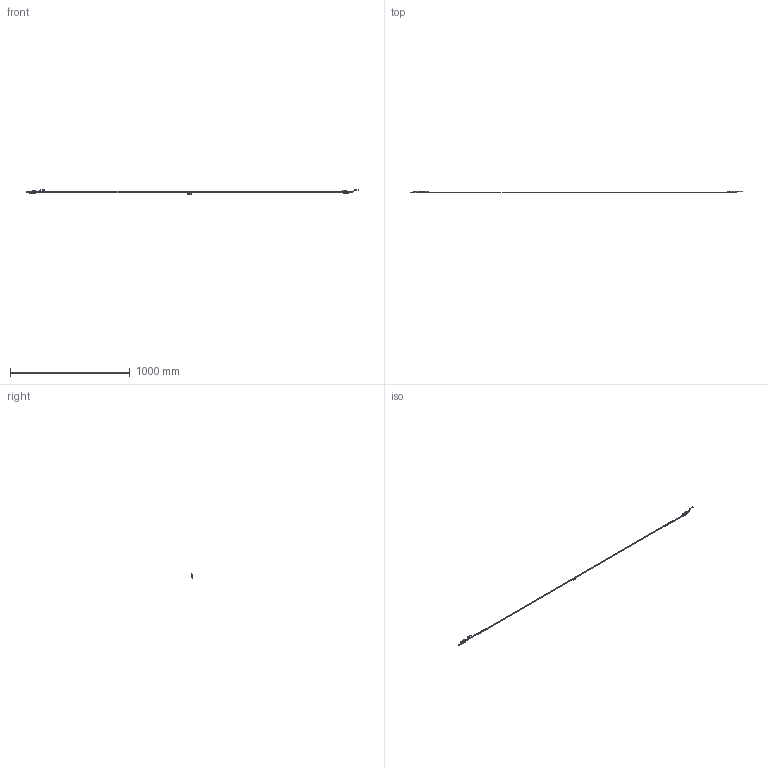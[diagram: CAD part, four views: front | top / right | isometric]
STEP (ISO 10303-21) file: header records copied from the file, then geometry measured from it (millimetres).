
FILE_DESCRIPTION(('Creo Elements/Direct Modeling STEP Export'),'2;1');
FILE_NAME('ITA-2620.stp','2025-01-28T 7:44:10',(''),(''),'Creo Elements/Direct Modeling STEP processor for AP214 (Solid Model)','Creo Elements/Direct Modeling 20.4A 18-Oct-2021 (C) Parametric Technology GmbH','');
FILE_SCHEMA(('AUTOMOTIVE_DESIGN { 1 0 10303 214 1 1 1 1 }'));
Length unit declared in the file: millimetre
Products named in the file (10): TAPE_2620_2; READING_HEAD_1; TAPE_2620_1; READING_HEAD_2; MAGNET_L1; MAGNET_L2; MAGNET_I0; END_TAPE_1; END_TAPE_2; ITA-2620
Assembly tree (9 placements, depth 2):
  ITA-2620
    END_TAPE_2
    END_TAPE_1
    MAGNET_I0
    MAGNET_L2
    MAGNET_L1
    READING_HEAD_2
    TAPE_2620_1
    READING_HEAD_1
    TAPE_2620_2
Bounding box: 2771.13 x 15.04 x 34.81 mm (x, y, z)
Volume: 39143.8 mm3; surface area: 70173.3 mm2
Topology: 9 solids, 9 shells, 1264 faces, 3449 edges, 2234 vertices
Faces by surface type: plane 922, cylinder 222, bspline 54, cone 32, torus 22, sphere 12
Entity records: 52805 total; most frequent: CARTESIAN_POINT 13690, ORIENTED_EDGE 6858, DIRECTION 5997, EDGE_CURVE 3429, VECTOR 2791, LINE 2791, VERTEX_POINT 2234, AXIS2_PLACEMENT_3D 1603
